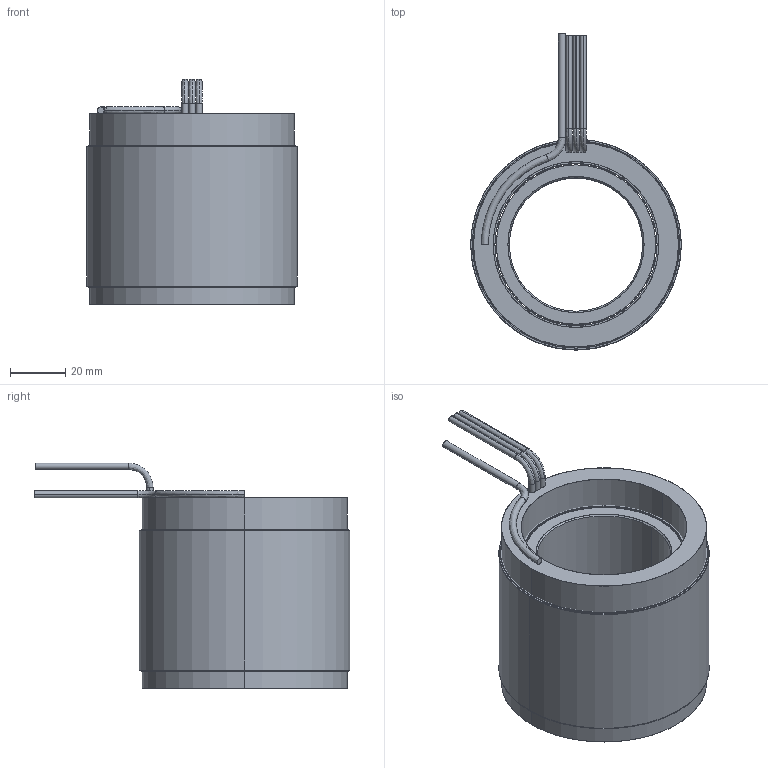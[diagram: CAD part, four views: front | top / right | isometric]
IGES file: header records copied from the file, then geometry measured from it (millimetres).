
Start section: SolidWorks IGES file using analytic representation for surfaces
Global section: file name: \\fs01.aveox.local\user documents\eng\My Documents\6100392-XX UAV STANDARD STATOR AND ROTOR SET 3.0 OD 27S24P\6100392-05.IGS; native system: SolidWorks 2016; preprocessor: SolidWorks 2016; author: eng; date: 201214.190234; units: inch
Bounding box: 76.2 x 114.3 x 81.66 mm (x, y, z)
Surface area: 91969.1 mm2 (no closed solid volume)
Topology: 0 solids, 0 shells, 75 faces, 2284 edges, 2284 vertices
Faces by surface type: revolution 46, bspline 29
